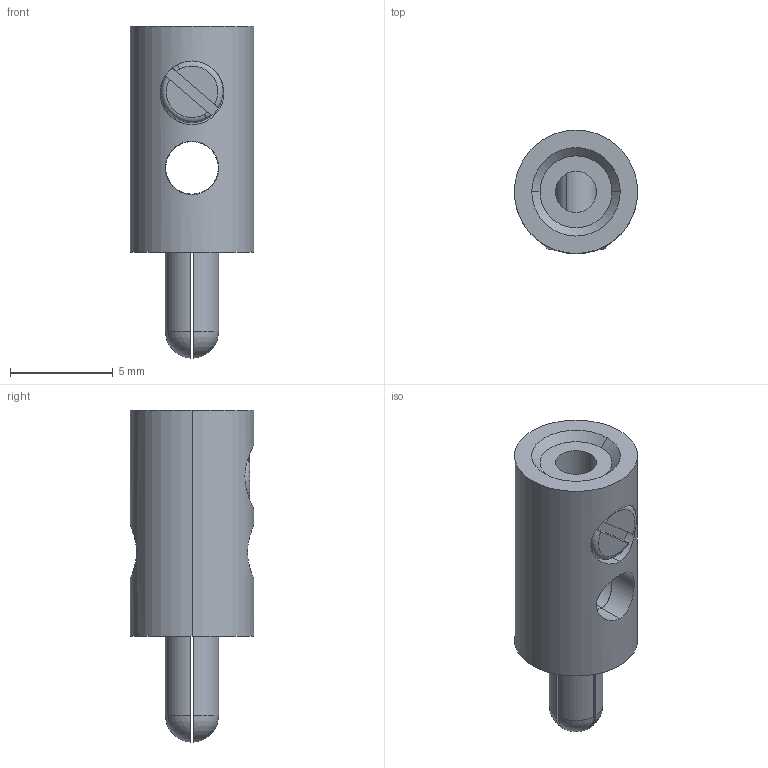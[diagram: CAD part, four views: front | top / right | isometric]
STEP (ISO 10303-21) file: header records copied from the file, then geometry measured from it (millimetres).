
FILE_DESCRIPTION(('CATIA V5 STEP Exchange'),'2;1');
FILE_NAME('X:\XDrive\---CAD---\--- Elektronik ---\Zwergstecker.stp','2023-02-20T20:07:54+00:00',('none'),('none'),'CATIA Version 5 Release 19 SP 2 (IN-10)','CATIA V5 STEP AP203','none');
FILE_SCHEMA(('CONFIG_CONTROL_DESIGN'));
Length unit declared in the file: millimetre
Products named in the file (1): Zwergstecker
Bounding box: 6 x 6 x 16.15 mm (x, y, z)
Volume: 283.5 mm3; surface area: 668.5 mm2
Topology: 3 solids, 3 shells, 56 faces, 128 edges, 84 vertices
Faces by surface type: cylinder 26, plane 20, sphere 4, torus 4, cone 2
Entity records: 1904 total; most frequent: CARTESIAN_POINT 731, ORIENTED_EDGE 256, DIRECTION 160, EDGE_CURVE 128, VERTEX_POINT 84, AXIS2_PLACEMENT_3D 77, EDGE_LOOP 74, ADVANCED_FACE 56
